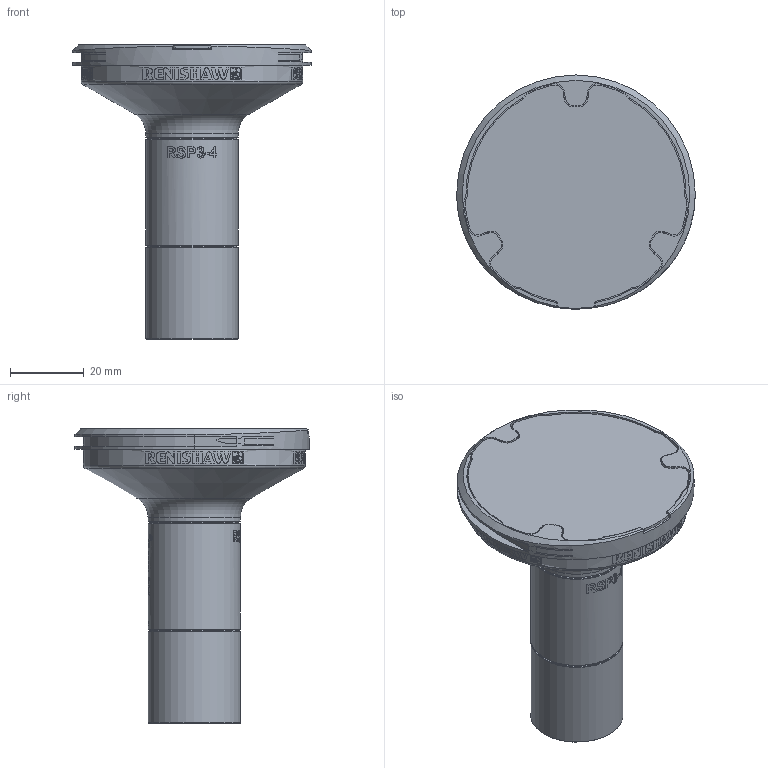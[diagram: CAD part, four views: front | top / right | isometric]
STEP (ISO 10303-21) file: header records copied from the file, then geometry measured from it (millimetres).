
FILE_DESCRIPTION(/* description */ (''),/* implementation_level */ '2;1');
FILE_NAME(/* name */ 'LA_3061_2307_E.stp',/* time_stamp */ '2014-02-06T13:14:41+00:00',/* author */ (''),/* organization */ (''),/* preprocessor_version */ 'ST-DEVELOPER v11',/* originating_system */ 'SIEMENS PLM Software NX 7.5',/* authorisation */ '');
FILE_SCHEMA (('AUTOMOTIVE_DESIGN { 1 0 10303 214 1 1 1 1 }'));
Length unit declared in the file: millimetre
Products named in the file (1): sj10D26Fkfuj
Bounding box: 64.6 x 63.38 x 79.63 mm (x, y, z)
Volume: 74122.6 mm3; surface area: 14351 mm2
Topology: 1 solids, 1 shells, 296 faces, 1370 edges, 1171 vertices
Faces by surface type: cylinder 244, plane 37, cone 7, extrusion 4, torus 4
Full cylindrical faces by diameter (mm): 24.1 x2, 24.2 x2, 25 x3, 60 x1
Entity records: 18517 total; most frequent: CARTESIAN_POINT 6318, ORIENTED_EDGE 2678, DIRECTION 1373, EDGE_CURVE 1339, VERTEX_POINT 1160, B_SPLINE_CURVE_WITH_KNOTS 828, AXIS2_PLACEMENT_3D 573, EDGE_LOOP 411
